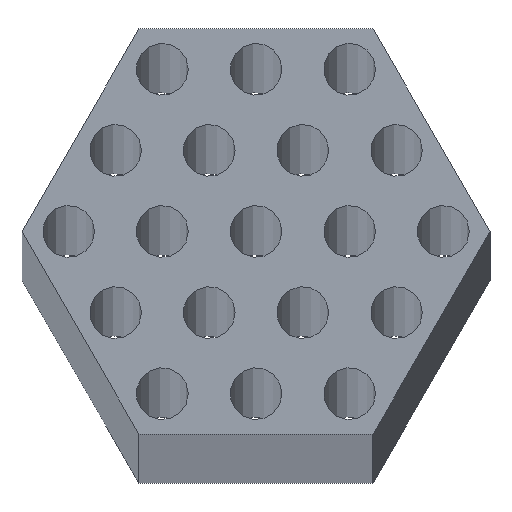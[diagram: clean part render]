
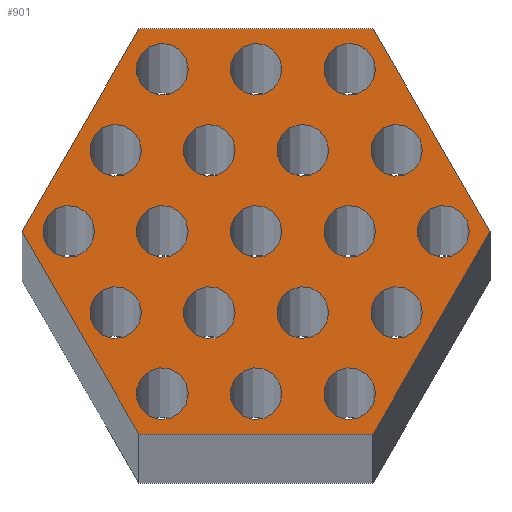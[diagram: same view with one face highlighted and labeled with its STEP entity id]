
A CAD part, top view. The second image highlights one B-rep face of the part: STEP entity #901.
In plain terms, the highlighted planar face has unit normal (0, 0, 1).
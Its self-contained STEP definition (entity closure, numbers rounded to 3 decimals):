
#24 = VERTEX_POINT('',#25);
#25 = CARTESIAN_POINT('',(10.993,0.,1320.8));
#31 = EDGE_CURVE('',#24,#32,#34,.T.);
#32 = VERTEX_POINT('',#33);
#33 = CARTESIAN_POINT('',(5.496,9.52,1320.8));
#34 = LINE('',#35,#36);
#35 = CARTESIAN_POINT('',(10.993,0.,1320.8));
#36 = VECTOR('',#37,1.);
#37 = DIRECTION('',(-0.5,0.866,0.));
#62 = EDGE_CURVE('',#32,#63,#65,.T.);
#63 = VERTEX_POINT('',#64);
#64 = CARTESIAN_POINT('',(-5.496,9.52,1320.8));
#65 = LINE('',#66,#67);
#66 = CARTESIAN_POINT('',(5.496,9.52,1320.8));
#67 = VECTOR('',#68,1.);
#68 = DIRECTION('',(-1.,0.,0.));
#93 = EDGE_CURVE('',#63,#94,#96,.T.);
#94 = VERTEX_POINT('',#95);
#95 = CARTESIAN_POINT('',(-10.993,0.,1320.8));
#96 = LINE('',#97,#98);
#97 = CARTESIAN_POINT('',(-5.496,9.52,1320.8));
#98 = VECTOR('',#99,1.);
#99 = DIRECTION('',(-0.5,-0.866,0.));
#124 = EDGE_CURVE('',#94,#125,#127,.T.);
#125 = VERTEX_POINT('',#126);
#126 = CARTESIAN_POINT('',(-5.496,-9.52,1320.8));
#127 = LINE('',#128,#129);
#128 = CARTESIAN_POINT('',(-10.993,0.,1320.8));
#129 = VECTOR('',#130,1.);
#130 = DIRECTION('',(0.5,-0.866,0.));
#155 = EDGE_CURVE('',#125,#156,#158,.T.);
#156 = VERTEX_POINT('',#157);
#157 = CARTESIAN_POINT('',(5.496,-9.52,1320.8));
#158 = LINE('',#159,#160);
#159 = CARTESIAN_POINT('',(-5.496,-9.52,1320.8));
#160 = VECTOR('',#161,1.);
#161 = DIRECTION('',(1.,0.,0.));
#186 = EDGE_CURVE('',#156,#24,#187,.T.);
#187 = LINE('',#188,#189);
#188 = CARTESIAN_POINT('',(5.496,-9.52,1320.8));
#189 = VECTOR('',#190,1.);
#190 = DIRECTION('',(0.5,0.866,0.));
#210 = VERTEX_POINT('',#211);
#211 = CARTESIAN_POINT('',(7.819,-3.811,1320.8));
#217 = EDGE_CURVE('',#210,#210,#218,.T.);
#218 = CIRCLE('',#219,1.219);
#219 = AXIS2_PLACEMENT_3D('',#220,#221,#222);
#220 = CARTESIAN_POINT('',(6.6,-3.811,1320.8));
#221 = DIRECTION('',(0.,0.,1.));
#222 = DIRECTION('',(1.,0.,0.));
#243 = VERTEX_POINT('',#244);
#244 = CARTESIAN_POINT('',(-5.381,-3.811,1320.8));
#250 = EDGE_CURVE('',#243,#243,#251,.T.);
#251 = CIRCLE('',#252,1.219);
#252 = AXIS2_PLACEMENT_3D('',#253,#254,#255);
#253 = CARTESIAN_POINT('',(-6.6,-3.811,1320.8));
#254 = DIRECTION('',(0.,0.,1.));
#255 = DIRECTION('',(1.,0.,0.));
#276 = VERTEX_POINT('',#277);
#277 = CARTESIAN_POINT('',(7.819,3.811,1320.8));
#283 = EDGE_CURVE('',#276,#276,#284,.T.);
#284 = CIRCLE('',#285,1.219);
#285 = AXIS2_PLACEMENT_3D('',#286,#287,#288);
#286 = CARTESIAN_POINT('',(6.6,3.811,1320.8));
#287 = DIRECTION('',(0.,0.,1.));
#288 = DIRECTION('',(1.,0.,0.));
#309 = VERTEX_POINT('',#310);
#310 = CARTESIAN_POINT('',(3.419,3.811,1320.8));
#316 = EDGE_CURVE('',#309,#309,#317,.T.);
#317 = CIRCLE('',#318,1.219);
#318 = AXIS2_PLACEMENT_3D('',#319,#320,#321);
#319 = CARTESIAN_POINT('',(2.2,3.811,1320.8));
#320 = DIRECTION('',(0.,0.,1.));
#321 = DIRECTION('',(1.,0.,0.));
#342 = VERTEX_POINT('',#343);
#343 = CARTESIAN_POINT('',(-0.981,3.811,1320.8));
#349 = EDGE_CURVE('',#342,#342,#350,.T.);
#350 = CIRCLE('',#351,1.219);
#351 = AXIS2_PLACEMENT_3D('',#352,#353,#354);
#352 = CARTESIAN_POINT('',(-2.2,3.811,1320.8));
#353 = DIRECTION('',(0.,0.,1.));
#354 = DIRECTION('',(1.,0.,0.));
#375 = VERTEX_POINT('',#376);
#376 = CARTESIAN_POINT('',(1.219,7.621,1320.8));
#382 = EDGE_CURVE('',#375,#375,#383,.T.);
#383 = CIRCLE('',#384,1.219);
#384 = AXIS2_PLACEMENT_3D('',#385,#386,#387);
#385 = CARTESIAN_POINT('',(0.,7.621,1320.8));
#386 = DIRECTION('',(0.,0.,1.));
#387 = DIRECTION('',(1.,0.,0.));
#408 = VERTEX_POINT('',#409);
#409 = CARTESIAN_POINT('',(10.019,0.,1320.8));
#415 = EDGE_CURVE('',#408,#408,#416,.T.);
#416 = CIRCLE('',#417,1.219);
#417 = AXIS2_PLACEMENT_3D('',#418,#419,#420);
#418 = CARTESIAN_POINT('',(8.8,0.,1320.8));
#419 = DIRECTION('',(0.,0.,1.));
#420 = DIRECTION('',(1.,0.,0.));
#441 = VERTEX_POINT('',#442);
#442 = CARTESIAN_POINT('',(-7.581,0.,1320.8));
#448 = EDGE_CURVE('',#441,#441,#449,.T.);
#449 = CIRCLE('',#450,1.219);
#450 = AXIS2_PLACEMENT_3D('',#451,#452,#453);
#451 = CARTESIAN_POINT('',(-8.8,0.,1320.8));
#452 = DIRECTION('',(0.,0.,1.));
#453 = DIRECTION('',(1.,0.,0.));
#474 = VERTEX_POINT('',#475);
#475 = CARTESIAN_POINT('',(1.219,0.,1320.8));
#481 = EDGE_CURVE('',#474,#474,#482,.T.);
#482 = CIRCLE('',#483,1.219);
#483 = AXIS2_PLACEMENT_3D('',#484,#485,#486);
#484 = CARTESIAN_POINT('',(0.,0.,1320.8));
#485 = DIRECTION('',(0.,0.,1.));
#486 = DIRECTION('',(1.,0.,0.));
#507 = VERTEX_POINT('',#508);
#508 = CARTESIAN_POINT('',(1.219,-7.621,1320.8));
#514 = EDGE_CURVE('',#507,#507,#515,.T.);
#515 = CIRCLE('',#516,1.219);
#516 = AXIS2_PLACEMENT_3D('',#517,#518,#519);
#517 = CARTESIAN_POINT('',(0.,-7.621,1320.8));
#518 = DIRECTION('',(0.,0.,1.));
#519 = DIRECTION('',(1.,0.,0.));
#540 = VERTEX_POINT('',#541);
#541 = CARTESIAN_POINT('',(5.619,0.,1320.8));
#547 = EDGE_CURVE('',#540,#540,#548,.T.);
#548 = CIRCLE('',#549,1.219);
#549 = AXIS2_PLACEMENT_3D('',#550,#551,#552);
#550 = CARTESIAN_POINT('',(4.4,0.,1320.8));
#551 = DIRECTION('',(0.,0.,1.));
#552 = DIRECTION('',(1.,0.,0.));
#573 = VERTEX_POINT('',#574);
#574 = CARTESIAN_POINT('',(-3.181,0.,1320.8));
#580 = EDGE_CURVE('',#573,#573,#581,.T.);
#581 = CIRCLE('',#582,1.219);
#582 = AXIS2_PLACEMENT_3D('',#583,#584,#585);
#583 = CARTESIAN_POINT('',(-4.4,0.,1320.8));
#584 = DIRECTION('',(0.,0.,1.));
#585 = DIRECTION('',(1.,0.,0.));
#606 = VERTEX_POINT('',#607);
#607 = CARTESIAN_POINT('',(5.619,-7.621,1320.8));
#613 = EDGE_CURVE('',#606,#606,#614,.T.);
#614 = CIRCLE('',#615,1.219);
#615 = AXIS2_PLACEMENT_3D('',#616,#617,#618);
#616 = CARTESIAN_POINT('',(4.4,-7.621,1320.8));
#617 = DIRECTION('',(0.,0.,1.));
#618 = DIRECTION('',(1.,0.,0.));
#639 = VERTEX_POINT('',#640);
#640 = CARTESIAN_POINT('',(-3.181,-7.621,1320.8));
#646 = EDGE_CURVE('',#639,#639,#647,.T.);
#647 = CIRCLE('',#648,1.219);
#648 = AXIS2_PLACEMENT_3D('',#649,#650,#651);
#649 = CARTESIAN_POINT('',(-4.4,-7.621,1320.8));
#650 = DIRECTION('',(0.,0.,1.));
#651 = DIRECTION('',(1.,0.,0.));
#672 = VERTEX_POINT('',#673);
#673 = CARTESIAN_POINT('',(3.419,-3.811,1320.8));
#679 = EDGE_CURVE('',#672,#672,#680,.T.);
#680 = CIRCLE('',#681,1.219);
#681 = AXIS2_PLACEMENT_3D('',#682,#683,#684);
#682 = CARTESIAN_POINT('',(2.2,-3.811,1320.8));
#683 = DIRECTION('',(0.,0.,1.));
#684 = DIRECTION('',(1.,0.,0.));
#705 = VERTEX_POINT('',#706);
#706 = CARTESIAN_POINT('',(-0.981,-3.811,1320.8));
#712 = EDGE_CURVE('',#705,#705,#713,.T.);
#713 = CIRCLE('',#714,1.219);
#714 = AXIS2_PLACEMENT_3D('',#715,#716,#717);
#715 = CARTESIAN_POINT('',(-2.2,-3.811,1320.8));
#716 = DIRECTION('',(0.,0.,1.));
#717 = DIRECTION('',(1.,0.,0.));
#738 = VERTEX_POINT('',#739);
#739 = CARTESIAN_POINT('',(-5.381,3.811,1320.8));
#745 = EDGE_CURVE('',#738,#738,#746,.T.);
#746 = CIRCLE('',#747,1.219);
#747 = AXIS2_PLACEMENT_3D('',#748,#749,#750);
#748 = CARTESIAN_POINT('',(-6.6,3.811,1320.8));
#749 = DIRECTION('',(0.,0.,1.));
#750 = DIRECTION('',(1.,0.,0.));
#771 = VERTEX_POINT('',#772);
#772 = CARTESIAN_POINT('',(5.619,7.621,1320.8));
#778 = EDGE_CURVE('',#771,#771,#779,.T.);
#779 = CIRCLE('',#780,1.219);
#780 = AXIS2_PLACEMENT_3D('',#781,#782,#783);
#781 = CARTESIAN_POINT('',(4.4,7.621,1320.8));
#782 = DIRECTION('',(0.,0.,1.));
#783 = DIRECTION('',(1.,0.,0.));
#804 = VERTEX_POINT('',#805);
#805 = CARTESIAN_POINT('',(-3.181,7.621,1320.8));
#811 = EDGE_CURVE('',#804,#804,#812,.T.);
#812 = CIRCLE('',#813,1.219);
#813 = AXIS2_PLACEMENT_3D('',#814,#815,#816);
#814 = CARTESIAN_POINT('',(-4.4,7.621,1320.8));
#815 = DIRECTION('',(0.,0.,1.));
#816 = DIRECTION('',(1.,0.,0.));
#901 = ADVANCED_FACE('',(#902,#910,#913,#916,#919,#922,#925,#928,#931,
    #934,#937,#940,#943,#946,#949,#952,#955,#958,#961,#964),#967,.T.);
#902 = FACE_BOUND('',#903,.T.);
#903 = EDGE_LOOP('',(#904,#905,#906,#907,#908,#909));
#904 = ORIENTED_EDGE('',*,*,#31,.T.);
#905 = ORIENTED_EDGE('',*,*,#62,.T.);
#906 = ORIENTED_EDGE('',*,*,#93,.T.);
#907 = ORIENTED_EDGE('',*,*,#124,.T.);
#908 = ORIENTED_EDGE('',*,*,#155,.T.);
#909 = ORIENTED_EDGE('',*,*,#186,.T.);
#910 = FACE_BOUND('',#911,.F.);
#911 = EDGE_LOOP('',(#912));
#912 = ORIENTED_EDGE('',*,*,#217,.T.);
#913 = FACE_BOUND('',#914,.F.);
#914 = EDGE_LOOP('',(#915));
#915 = ORIENTED_EDGE('',*,*,#250,.T.);
#916 = FACE_BOUND('',#917,.F.);
#917 = EDGE_LOOP('',(#918));
#918 = ORIENTED_EDGE('',*,*,#283,.T.);
#919 = FACE_BOUND('',#920,.F.);
#920 = EDGE_LOOP('',(#921));
#921 = ORIENTED_EDGE('',*,*,#316,.T.);
#922 = FACE_BOUND('',#923,.F.);
#923 = EDGE_LOOP('',(#924));
#924 = ORIENTED_EDGE('',*,*,#349,.T.);
#925 = FACE_BOUND('',#926,.F.);
#926 = EDGE_LOOP('',(#927));
#927 = ORIENTED_EDGE('',*,*,#382,.T.);
#928 = FACE_BOUND('',#929,.F.);
#929 = EDGE_LOOP('',(#930));
#930 = ORIENTED_EDGE('',*,*,#415,.T.);
#931 = FACE_BOUND('',#932,.F.);
#932 = EDGE_LOOP('',(#933));
#933 = ORIENTED_EDGE('',*,*,#448,.T.);
#934 = FACE_BOUND('',#935,.F.);
#935 = EDGE_LOOP('',(#936));
#936 = ORIENTED_EDGE('',*,*,#481,.T.);
#937 = FACE_BOUND('',#938,.F.);
#938 = EDGE_LOOP('',(#939));
#939 = ORIENTED_EDGE('',*,*,#514,.T.);
#940 = FACE_BOUND('',#941,.F.);
#941 = EDGE_LOOP('',(#942));
#942 = ORIENTED_EDGE('',*,*,#547,.T.);
#943 = FACE_BOUND('',#944,.F.);
#944 = EDGE_LOOP('',(#945));
#945 = ORIENTED_EDGE('',*,*,#580,.T.);
#946 = FACE_BOUND('',#947,.F.);
#947 = EDGE_LOOP('',(#948));
#948 = ORIENTED_EDGE('',*,*,#613,.T.);
#949 = FACE_BOUND('',#950,.F.);
#950 = EDGE_LOOP('',(#951));
#951 = ORIENTED_EDGE('',*,*,#646,.T.);
#952 = FACE_BOUND('',#953,.F.);
#953 = EDGE_LOOP('',(#954));
#954 = ORIENTED_EDGE('',*,*,#679,.T.);
#955 = FACE_BOUND('',#956,.F.);
#956 = EDGE_LOOP('',(#957));
#957 = ORIENTED_EDGE('',*,*,#712,.T.);
#958 = FACE_BOUND('',#959,.F.);
#959 = EDGE_LOOP('',(#960));
#960 = ORIENTED_EDGE('',*,*,#745,.T.);
#961 = FACE_BOUND('',#962,.F.);
#962 = EDGE_LOOP('',(#963));
#963 = ORIENTED_EDGE('',*,*,#778,.T.);
#964 = FACE_BOUND('',#965,.F.);
#965 = EDGE_LOOP('',(#966));
#966 = ORIENTED_EDGE('',*,*,#811,.T.);
#967 = PLANE('',#968);
#968 = AXIS2_PLACEMENT_3D('',#969,#970,#971);
#969 = CARTESIAN_POINT('',(0.,0.,1320.8));
#970 = DIRECTION('',(0.,0.,1.));
#971 = DIRECTION('',(1.,0.,0.));
